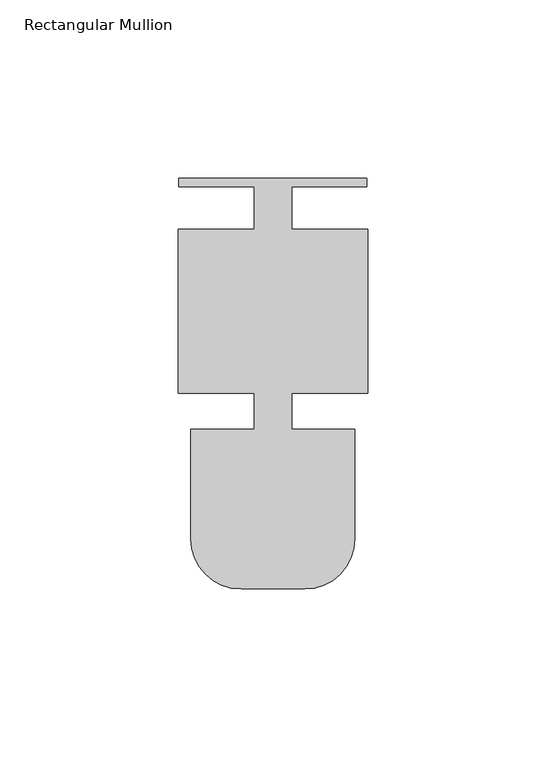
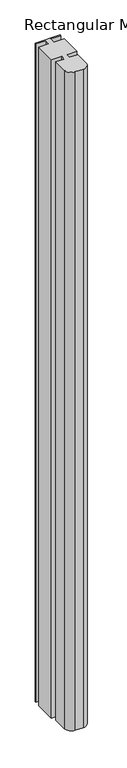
"""IFC4 building model written with IfcOpenShell, lengths in millimetres: member geometry, Rectangular Mullion : Danpal Middle Mullion."""

from ifc_helpers import new_model, si_unit, point, frame, frame_2d, origin, place, context, project, spatial, polyline, circle_curve, trimmed, segment, composite_curve, outline, extrude, source, transform, mapped, element, save


def rectangular_mullion_6f763872(model_context):
    return source(origin(), model_context, "Body", "SweptSolid", [
        extrude(outline(composite_curve([segment(polyline([(-26.4016215, 82.259449), (26.4016215, 82.259449), (26.4016215, 79.8669689), (5.2291344, 79.8669689), (5.2291344, 67.9), (26.6128833, 67.9), (26.6128833, 21.9008514), (5.2291344, 21.9008514), (5.2291344, 11.7887231), (23.0, 11.7887231), (23.0, -19.0073266)]), True, "CONTINUOUS"), segment(trimmed(circle_curve(frame_2d((8.9073266, -19.0073266)), 14.0926734), [point((23.0, -19.0073266))], [point((8.9073266, -33.1))], False, "CARTESIAN"), True, "CONTINUOUS"), segment(polyline([(8.9073266, -33.1), (-8.9073266, -33.1)]), True, "CONTINUOUS"), segment(trimmed(circle_curve(frame_2d((-8.9073266, -19.0073266)), 14.0926734), [point((-8.9073266, -33.1))], [point((-23.0, -19.0073266))], False, "CARTESIAN"), True, "CONTINUOUS"), segment(polyline([(-23.0, -19.0073266), (-23.0, 11.7887231), (-5.2291344, 11.7887231), (-5.2291344, 21.9008514), (-26.6128833, 21.9008514), (-26.6128833, 67.9), (-5.2291344, 67.9), (-5.2291344, 79.8669689), (-26.4016215, 79.8669689), (-26.4016215, 82.259449)]), True, "CONTINUOUS")], self_intersect=False)), frame((0.0, 0.0, -1466.6726842), z_axis=(0.0, 0.0, 1.0), x_axis=(1.0, 0.0, 0.0)), (0.0, 0.0, 1.0), 1466.6726842),
    ])


if __name__ == "__main__":
    model = new_model("IFC4")
    model_context = context("Model", 3, world=origin())
    ifc_project = project(units=[si_unit("LENGTHUNIT", "METRE", prefix="MILLI")], contexts=[model_context])
    site = spatial("IfcSite", under=ifc_project)
    building = spatial("IfcBuilding", under=site)
    placement = place(None, origin())
    rectangular_mullion_shape = rectangular_mullion_6f763872(model_context)
    element("IfcMember", 1, ObjectType="Rectangular Mullion : Danpal Middle Mullion", at=placement, inside=building, context=model_context, shape_type="MappedRepresentation", body=[
        mapped(rectangular_mullion_shape, transform((0.0, 0.0, 0.0), x_axis=(1.0, 0.0, 0.0), y_axis=(0.0, 1.0, 0.0), z_axis=(0.0, 0.0, 1.0))),
    ])
    save(model, "model.ifc")
